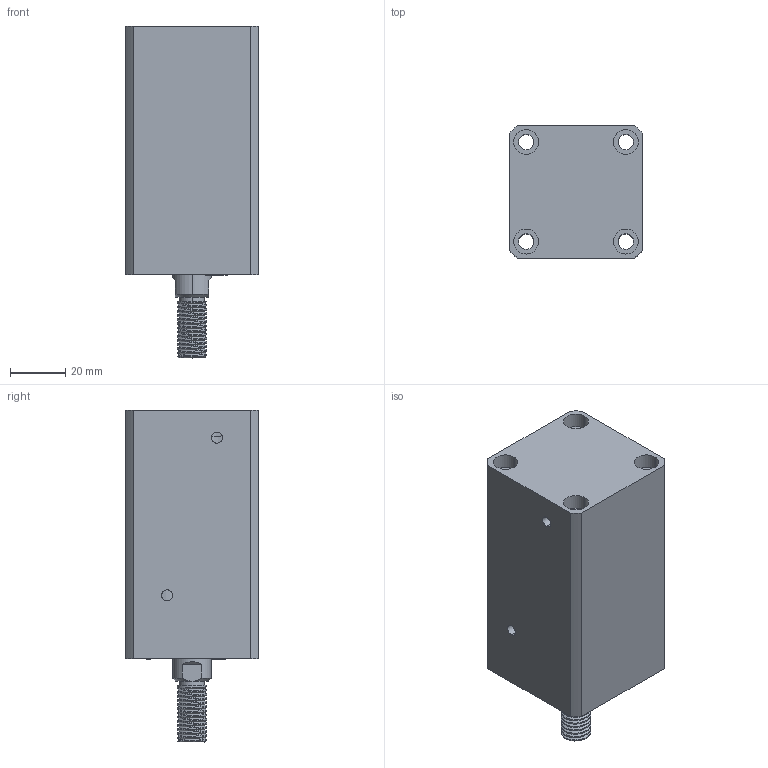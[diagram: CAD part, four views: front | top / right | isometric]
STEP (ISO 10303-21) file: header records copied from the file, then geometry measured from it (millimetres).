
FILE_DESCRIPTION (( 'STEP AP214' ), '1' );
FILE_NAME ('chtb-sdma25x45w_asm.STEP', '2018-05-22T07:35:48', ( 'Windows' ), ( 'Microsoft' ), 'SwSTEP 2.0', 'SolidWorks 2015', '' );
FILE_SCHEMA (( 'AUTOMOTIVE_DESIGN' ));
Length unit declared in the file: millimetre
Products named in the file (4): CHTB-SDMA25X45WHSG; CHTB-SDMA25X45NBT; CHTB-25QG; chtb-sdma25x45w_asm
Assembly tree (3 placements, depth 2):
  chtb-sdma25x45w_asm
    CHTB-25QG
    CHTB-SDMA25X45NBT
    CHTB-SDMA25X45WHSG
Bounding box: 48 x 48 x 120 mm (x, y, z)
Volume: 181346.7 mm3; surface area: 47801 mm2
Topology: 3 solids, 3 shells, 175 faces, 474 edges, 322 vertices
Faces by surface type: cylinder 117, plane 37, bspline 12, cone 9
Entity records: 10598 total; most frequent: CARTESIAN_POINT 6300, ORIENTED_EDGE 940, DIRECTION 762, EDGE_CURVE 470, VERTEX_POINT 322, AXIS2_PLACEMENT_3D 309, EDGE_LOOP 214, FACE_OUTER_BOUND 175
